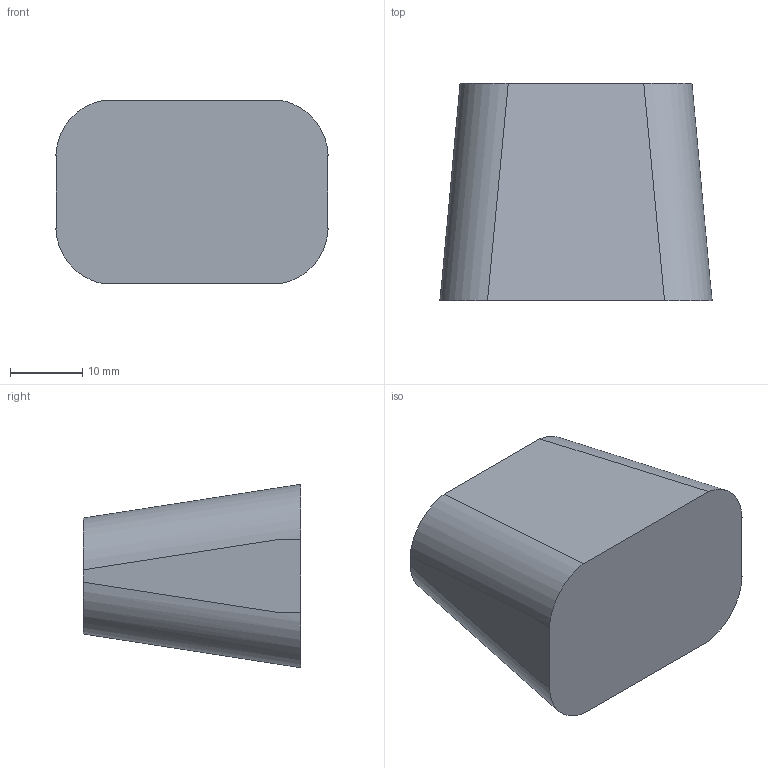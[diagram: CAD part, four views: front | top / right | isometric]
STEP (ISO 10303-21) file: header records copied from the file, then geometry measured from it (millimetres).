
FILE_DESCRIPTION( ( '' ), '1' );
FILE_NAME( 'C:/Documents and Settings/Nikhil/Desktop/Nik/Done/9132313.stp', '2013-10-23T11:42:01', ( '' ), ( '' ), ' ', ' ', ' ' );
FILE_SCHEMA( ( 'automotive_design' ) );
Length unit declared in the file: millimetre
Products named in the file (1): 1
Bounding box: 37.56 x 30 x 25.3 mm (x, y, z)
Volume: 19989.4 mm3; surface area: 4529.3 mm2
Topology: 1 solids, 1 shells, 20 faces, 48 edges, 32 vertices
Faces by surface type: plane 12, cylinder 8
Entity records: 1172 total; most frequent: CARTESIAN_POINT 109, DIRECTION 106, STYLED_ITEM 101, PRESENTATION_STYLE_ASSIGNMENT 101, COLOUR_RGB 101, ORIENTED_EDGE 96, EDGE_CURVE 48, CURVE_STYLE 48
